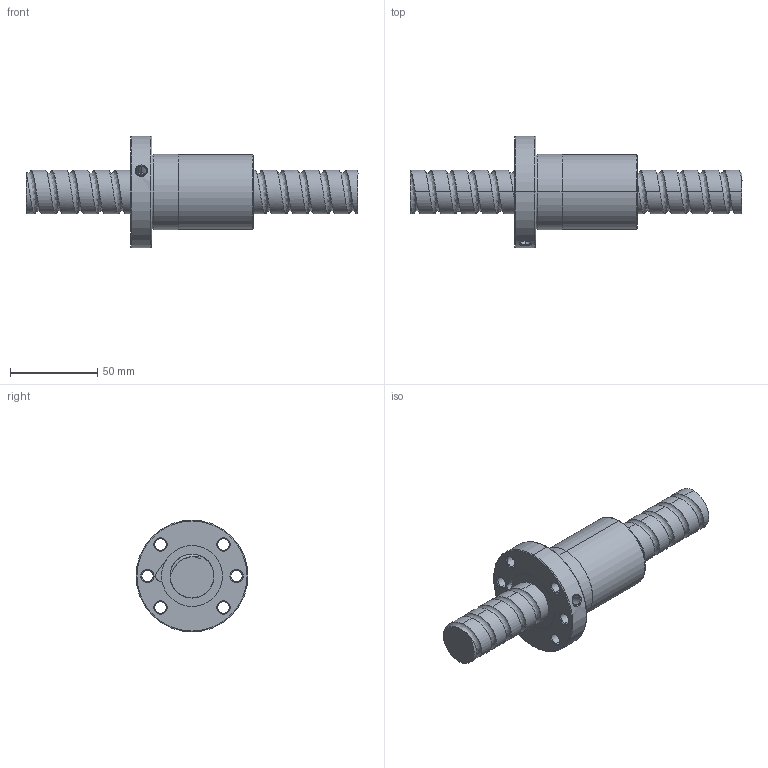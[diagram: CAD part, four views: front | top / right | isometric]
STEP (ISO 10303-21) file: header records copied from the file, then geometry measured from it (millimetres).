
FILE_DESCRIPTION (( 'STEP AP214' ), '1' );
FILE_NAME ('FSDC02512T4-C-A.STEP', '2010-06-25T11:49:29', ( 'XPAUTO' ), ( 'XPAUTO' ), 'SwSTEP 2.0', 'SolidWorks 2007', '' );
FILE_SCHEMA (( 'AUTOMOTIVE_DESIGN' ));
Length unit declared in the file: millimetre
Products named in the file (3): FSDC02512T4-C-A.sldasm-Part-1_預設; FSDC02512T4-C-A; FSDC02512T4-C-A.sldasm-Part-2_預設
Assembly tree (2 placements, depth 2):
  FSDC02512T4-C-A
    FSDC02512T4-C-A.sldasm-Part-2_預設
    FSDC02512T4-C-A.sldasm-Part-1_預設
Bounding box: 190 x 64 x 64 mm (x, y, z)
Volume: 171712.3 mm3; surface area: 40213.3 mm2
Topology: 2 solids, 2 shells, 122 faces, 304 edges, 191 vertices
Faces by surface type: cylinder 71, cone 24, plane 16, torus 6, bspline 5
Entity records: 25205 total; most frequent: CARTESIAN_POINT 22276, ORIENTED_EDGE 608, DIRECTION 576, EDGE_CURVE 304, AXIS2_PLACEMENT_3D 237, VERTEX_POINT 191, EDGE_LOOP 143, ADVANCED_FACE 122
